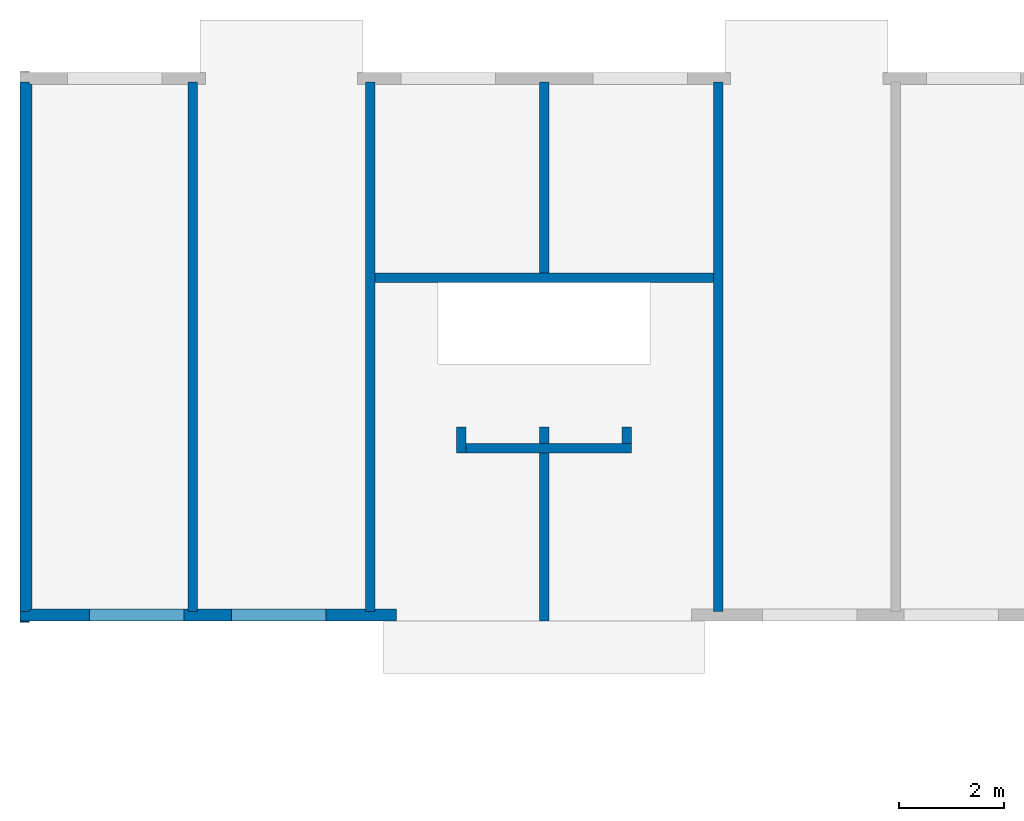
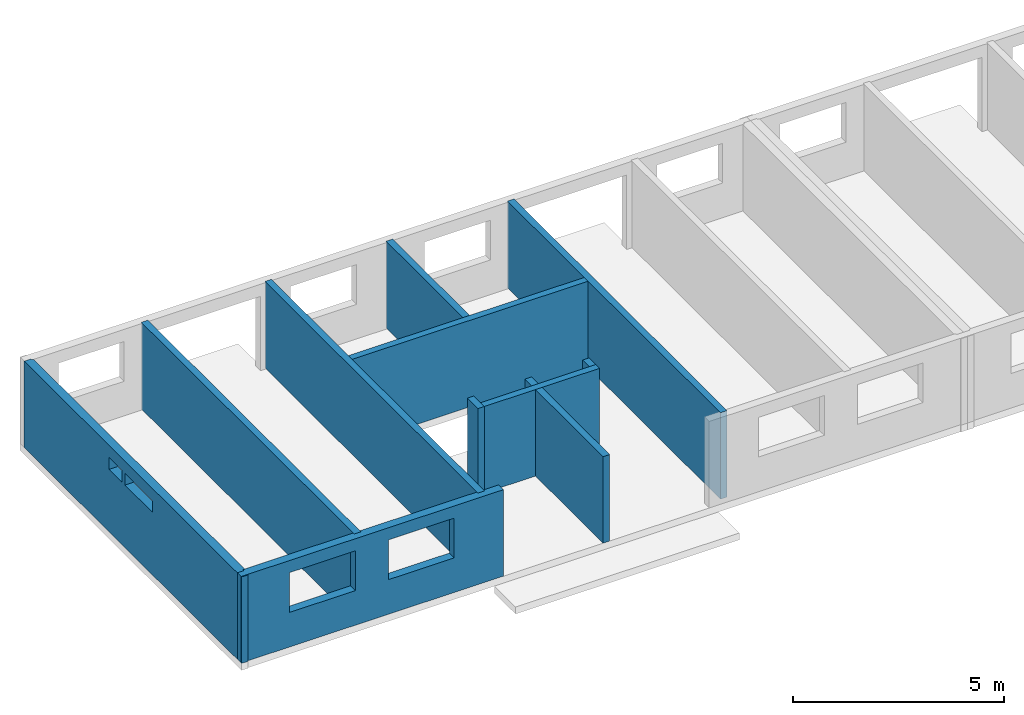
# One storey, part 2 of 9: 13 walls, 4 openings.
"""IFC2X3 building model written with IfcOpenShell, lengths in millimetres."""

from ifc_helpers import new_model, entity, si_unit, converted_unit, frame, frame_2d, origin, origin_with_axes, place, context, subcontext, project, spatial, polyline, rectangle, outline, extrude, material, layer, layer_set, layer_usage, element, save


model = new_model("IFC2X3")

# Units and contexts
model_context = context("Model", 3, precision=1e-05, world=origin())
plan_context = context("Plan", 3, precision=1e-05, world=origin())
body_context = subcontext(model_context, "Body", "Model", "MODEL_VIEW")
ifc_project = project(units=[si_unit("LENGTHUNIT", "METRE", prefix="MILLI"), converted_unit("PLANEANGLEUNIT", "DEGREE", entity("IfcPlaneAngleMeasure", 0.0174532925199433), si_unit("PLANEANGLEUNIT", "RADIAN"), dimensions=[0, 0, 0, 0, 0, 0, 0]), si_unit("AREAUNIT", "SQUARE_METRE"), si_unit("VOLUMEUNIT", "CUBIC_METRE")], contexts=[model_context, plan_context])

# Building, storey
building_placement = place(None, origin())
building = spatial("IfcBuilding", under=ifc_project, at=building_placement, Name="Bâtiment", CompositionType="ELEMENT")
storey_placement = place(building_placement, frame((0.0, 0.0, 2700.0), z_axis=(0.0, 0.0, 1.0), x_axis=(1.0, 0.0, 0.0)))
storey = spatial("IfcBuildingStorey", under=building, at=storey_placement, Name="r+1", CompositionType="ELEMENT", Elevation=2700.0)

# Walls
ifc_material_1 = material(Name="moellons")
ifc_layer_1 = layer(ifc_material_1, 20.0775509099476)
ifc_layer_set_1 = layer_set([ifc_layer_1])
ifc_layer_usage_1 = layer_usage(ifc_layer_set_1, "AXIS2", "POSITIVE", 0.0)
wall_1_placement = place(storey_placement, frame((-5.557612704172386e-12, 20.0775509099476, 0.0), z_axis=(0.0, 0.0, 1.0), x_axis=(1.0, -1.836970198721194e-16, 0.0)))
element("IfcWallStandardCase", 1, at=wall_1_placement, inside=storey, material=ifc_layer_usage_1, context=body_context, shape_type="SweptSolid", body=[
    extrude(rectangle(XDim=180.0, YDim=20.0775509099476, at=frame_2d((90.0, 10.0387754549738), x_axis=(1.0, 0.0))), frame((0.0, -20.0775509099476, 0.0), z_axis=(0.0, 0.0, 1.0), x_axis=(1.0, 0.0, 0.0)), (0.0, 0.0, 1.0), 2500.0),
])
ifc_material_2 = material(Name="moellons")
ifc_layer_2 = layer(ifc_material_2, 180.0)
ifc_layer_set_2 = layer_set([ifc_layer_2])
ifc_layer_usage_2 = layer_usage(ifc_layer_set_2, "AXIS2", "POSITIVE", 0.0)
wall_2_placement = place(storey_placement, frame((3380.0, 200.0775509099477, 0.0), z_axis=(0.0, 0.0, 1.0), x_axis=(4.506911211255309e-17, 1.0, 0.0)))
element("IfcWallStandardCase", 2, at=wall_2_placement, inside=storey, material=ifc_layer_usage_2, context=body_context, shape_type="SweptSolid", body=[
    extrude(rectangle(XDim=10090.00021457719, YDim=180.0, at=frame_2d((5045.000107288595, 90.0), x_axis=(1.0, 0.0))), origin_with_axes(), (0.0, 0.0, 1.0), 2500.0),
])
ifc_material_3 = material(Name="moellons")
ifc_layer_3 = layer(ifc_material_3, 180.0)
ifc_layer_set_3 = layer_set([ifc_layer_3])
ifc_layer_usage_3 = layer_usage(ifc_layer_set_3, "AXIS2", "POSITIVE", 0.0)
wall_3_placement = place(storey_placement, frame((6759.999999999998, 200.0775509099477, 0.0), z_axis=(0.0, 0.0, 1.0), x_axis=(0.0, 1.0, 0.0)))
element("IfcWallStandardCase", 3, at=wall_3_placement, inside=storey, material=ifc_layer_usage_3, context=body_context, shape_type="SweptSolid", body=[
    extrude(rectangle(XDim=10090.00021457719, YDim=180.0, at=frame_2d((5045.000107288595, 90.0), x_axis=(1.0, 0.0))), origin_with_axes(), (0.0, 0.0, 1.0), 2500.0),
])
ifc_material_4 = material(Name="moellons")
ifc_layer_4 = layer(ifc_material_4, 180.0)
ifc_layer_set_4 = layer_set([ifc_layer_4])
ifc_layer_usage_4 = layer_usage(ifc_layer_set_4, "AXIS2", "POSITIVE", 0.0)
wall_4_placement = place(storey_placement, frame((13389.99993810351, 200.0775509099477, 0.0), z_axis=(0.0, 0.0, 1.0), x_axis=(0.0, 1.0, 0.0)))
element("IfcWallStandardCase", 4, at=wall_4_placement, inside=storey, material=ifc_layer_usage_4, context=body_context, shape_type="SweptSolid", body=[
    extrude(rectangle(XDim=10090.00021457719, YDim=180.0, at=frame_2d((5045.000107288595, 90.0), x_axis=(1.0, 0.0))), origin_with_axes(), (0.0, 0.0, 1.0), 2500.0),
])
ifc_material_5 = material(Name="moellons")
ifc_layer_5 = layer(ifc_material_5, 180.0)
ifc_layer_set_5 = layer_set([ifc_layer_5])
ifc_layer_usage_5 = layer_usage(ifc_layer_set_5, "AXIS2", "POSITIVE", 0.0)
wall_5_placement = place(storey_placement, frame((10075.0, 20.03821782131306, 0.0), z_axis=(0.0, 0.0, 1.0), x_axis=(0.0, 1.0, 0.0)))
element("IfcWallStandardCase", 5, at=wall_5_placement, inside=storey, material=ifc_layer_usage_5, context=body_context, shape_type="SweptSolid", body=[
    extrude(outline(polyline([(0.0, 0.0), (3200.039547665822, 0.0), (3200.039547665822, 180.0), (0.0007169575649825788, 180.0), (0.0, 0.0)])), origin_with_axes(), (0.0, 0.0, 1.0), 2500.0),
])
ifc_material_6 = material(Name="moellons")
ifc_layer_6 = layer(ifc_material_6, 180.0)
ifc_layer_set_6 = layer_set([ifc_layer_6])
ifc_layer_usage_6 = layer_usage(ifc_layer_set_6, "AXIS2", "POSITIVE", 0.0)
wall_6_placement = place(storey_placement, frame((10075.0, 20.03821782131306, 0.0), z_axis=(0.0, 0.0, 1.0), x_axis=(0.0, 1.0, 0.0)))
element("IfcWallStandardCase", 6, at=wall_6_placement, inside=storey, material=ifc_layer_usage_6, context=body_context, shape_type="SweptSolid", body=[
    extrude(outline(polyline([(3380.039547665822, 0.0), (3700.039547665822, 0.0), (3700.039547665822, 180.0), (3380.039547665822, 180.0), (3380.039547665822, 0.0)])), origin_with_axes(), (0.0, 0.0, 1.0), 2500.0),
])
ifc_material_7 = material(Name="moellons")
ifc_layer_7 = layer(ifc_material_7, 180.0)
ifc_layer_set_7 = layer_set([ifc_layer_7])
ifc_layer_usage_7 = layer_usage(ifc_layer_set_7, "AXIS2", "POSITIVE", 0.0)
wall_7_placement = place(storey_placement, frame((10075.0, 6650.077765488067, 0.0), z_axis=(0.0, 0.0, 1.0), x_axis=(0.0, 1.0, 0.0)))
element("IfcWallStandardCase", 7, at=wall_7_placement, inside=storey, material=ifc_layer_usage_7, context=body_context, shape_type="SweptSolid", body=[
    extrude(rectangle(XDim=3639.999999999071, YDim=180.0, at=frame_2d((1819.999999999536, 90.0), x_axis=(1.0, 0.0))), origin_with_axes(), (0.0, 0.0, 1.0), 2500.0),
])
ifc_material_8 = material(Name="moellons")
ifc_layer_8 = layer(ifc_material_8, 180.0)
ifc_layer_set_8 = layer_set([ifc_layer_8])
ifc_layer_usage_8 = layer_usage(ifc_layer_set_8, "AXIS2", "POSITIVE", 0.0)
wall_8_placement = place(storey_placement, frame((13209.99947974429, 6650.077765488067, 0.0), z_axis=(0.0, 0.0, 1.0), x_axis=(-1.0, 0.0, 0.0)))
element("IfcWallStandardCase", 8, at=wall_8_placement, inside=storey, material=ifc_layer_usage_8, context=body_context, shape_type="SweptSolid", body=[
    extrude(rectangle(XDim=6449.999479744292, YDim=180.0, at=frame_2d((3224.999739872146, 90.0), x_axis=(1.0, 0.0))), origin_with_axes(), (0.0, 0.0, 1.0), 2500.0),
])
ifc_material_9 = material(Name="moellons")
ifc_layer_9 = layer(ifc_material_9, 180.0)
ifc_layer_set_9 = layer_set([ifc_layer_9])
ifc_layer_usage_9 = layer_usage(ifc_layer_set_9, "AXIS2", "POSITIVE", 0.0)
wall_9_placement = place(storey_placement, frame((8499.999453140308, 3220.077765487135, 0.0), z_axis=(0.0, 0.0, 1.0), x_axis=(0.0, 1.0, 0.0)))
element("IfcWallStandardCase", 9, at=wall_9_placement, inside=storey, material=ifc_layer_usage_9, context=body_context, shape_type="SweptSolid", body=[
    extrude(rectangle(XDim=500.0, YDim=180.0, at=frame_2d((250.0, 90.0), x_axis=(1.0, 0.0))), origin_with_axes(), (0.0, 0.0, 1.0), 2500.0),
])
ifc_material_10 = material(Name="moellons")
ifc_layer_10 = layer(ifc_material_10, 180.0)
ifc_layer_set_10 = layer_set([ifc_layer_10])
ifc_layer_usage_10 = layer_usage(ifc_layer_set_10, "AXIS2", "POSITIVE", 0.0)
wall_10_placement = place(storey_placement, frame((11649.99945314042, 3400.077765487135, 0.0), z_axis=(0.0, 0.0, 1.0), x_axis=(-1.0, 0.0, 0.0)))
element("IfcWallStandardCase", 10, at=wall_10_placement, inside=storey, material=ifc_layer_usage_10, context=body_context, shape_type="SweptSolid", body=[
    extrude(rectangle(XDim=3150.000000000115, YDim=180.0, at=frame_2d((1575.000000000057, 90.0), x_axis=(1.0, 0.0))), origin_with_axes(), (0.0, 0.0, 1.0), 2500.0),
])
ifc_material_11 = material(Name="moellons")
ifc_layer_11 = layer(ifc_material_11, 180.0)
ifc_layer_set_11 = layer_set([ifc_layer_11])
ifc_layer_usage_11 = layer_usage(ifc_layer_set_11, "AXIS2", "POSITIVE", 0.0)
wall_11_placement = place(storey_placement, frame((11469.99945314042, 3720.077765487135, 0.0), z_axis=(0.0, 0.0, 1.0), x_axis=(0.0, -1.0, 0.0)))
element("IfcWallStandardCase", 11, at=wall_11_placement, inside=storey, material=ifc_layer_usage_11, context=body_context, shape_type="SweptSolid", body=[
    extrude(rectangle(XDim=320.0, YDim=180.0, at=frame_2d((160.0, 90.0), x_axis=(1.0, 0.0))), origin_with_axes(), (0.0, 0.0, 1.0), 2500.0),
])

# Wall, openings
ifc_material_12 = material(Name="moellons")
ifc_layer_12 = layer(ifc_material_12, 180.0)
ifc_material_13 = material(Name="briquettes")
ifc_layer_13 = layer(ifc_material_13, 39.99999999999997)
ifc_material_14 = material(Name="enduit platre")
ifc_layer_14 = layer(ifc_material_14, 10.00000000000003)
ifc_layer_set_12 = layer_set([ifc_layer_12, ifc_layer_13, ifc_layer_14])
ifc_layer_usage_12 = layer_usage(ifc_layer_set_12, "AXIS2", "POSITIVE", 0.0)
wall_12_placement = place(storey_placement, frame((-3.671044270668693e-12, 10290.07776548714, 0.0), z_axis=(0.0, 0.0, 1.0), x_axis=(-1.836970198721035e-16, -1.0, 0.0)))
wall_12 = element("IfcWallStandardCase", 12, at=wall_12_placement, inside=storey, material=ifc_layer_usage_12, context=body_context, shape_type="SweptSolid", body=[
    extrude(outline(polyline([(0.0, 0.0), (10090.00021457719, 0.0), (10090.00021457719, 180.0000000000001), (10050.00021457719, 180.0000000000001), (10050.00021457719, 220.0), (10040.00021457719, 220.0), (10040.00021457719, 230.0), (49.99999999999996, 230.0), (49.99999999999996, 220.0), (39.99999999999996, 220.0), (39.99999999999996, 180.0), (-3.306546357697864e-14, 180.0), (0.0, 0.0)])), origin_with_axes(), (0.0, 0.0, 1.0), 2500.0),
])
opening_1_placement = place(wall_12_placement, frame((4020.000000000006, -7.068193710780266e-28, 1810.0), z_axis=(0.0, 1.0, 0.0), x_axis=(0.0, 0.0, 1.0)))
element("IfcOpeningElement", 13, at=opening_1_placement, cuts=wall_12, Name="Baie de fenêtre", ObjectType="Opening", context=body_context, shape_type="SweptSolid", body=[
    extrude(rectangle(XDim=340.0, YDim=600.0, at=frame_2d((170.0, 300.0), x_axis=(1.0, 0.0))), origin_with_axes(), (0.0, 0.0, 1.0), 230.0),
])
opening_2_placement = place(wall_12_placement, frame((4769.999999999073, 1.009741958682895e-28, 1810.0), z_axis=(0.0, 1.0, 0.0), x_axis=(0.0, 0.0, 1.0)))
element("IfcOpeningElement", 14, at=opening_2_placement, cuts=wall_12, Name="Baie de fenêtre", ObjectType="Opening", context=body_context, shape_type="SweptSolid", body=[
    extrude(rectangle(XDim=340.0, YDim=1300.0, at=frame_2d((170.0, 650.0), x_axis=(1.0, 0.0))), origin_with_axes(), (0.0, 0.0, 1.0), 230.0000000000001),
])

ifc_material_15 = material(Name="moellons")
ifc_layer_15 = layer(ifc_material_15, 180.0000000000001)
ifc_material_16 = material(Name="briquettes")
ifc_layer_16 = layer(ifc_material_16, 40.0)
ifc_material_17 = material(Name="enduit platre")
ifc_layer_17 = layer(ifc_material_17, 10.0)
ifc_layer_set_13 = layer_set([ifc_layer_15, ifc_layer_16, ifc_layer_17])
ifc_layer_usage_13 = layer_usage(ifc_layer_set_13, "AXIS2", "POSITIVE", 0.0)
wall_13_placement = place(storey_placement, frame((-5.557612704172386e-12, 20.0775509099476, 0.0), z_axis=(0.0, 0.0, 1.0), x_axis=(1.0, 0.0, 0.0)))
wall_13 = element("IfcWallStandardCase", 15, at=wall_13_placement, inside=storey, material=ifc_layer_usage_13, context=body_context, shape_type="SweptSolid", body=[
    extrude(outline(polyline([(6760.000000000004, 230.0000000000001), (6760.000000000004, 180.0000000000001), (6580.000000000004, 180.0000000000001), (6580.000000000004, 230.0000000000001), (3380.000000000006, 230.0000000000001), (3380.000000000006, 180.0000000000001), (3200.000000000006, 180.0000000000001), (3200.000000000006, 230.0000000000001), (220.0000000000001, 230.0000000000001), (220.0000000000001, 220.0000000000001), (180.0000000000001, 220.0000000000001), (180.0000000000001, 180.0000000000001), (3.306546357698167e-14, 180.0000000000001), (0.0, 0.0), (7175.000000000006, 0.0), (7175.000000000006, 230.0000000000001), (6760.000000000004, 230.0000000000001)])), origin_with_axes(), (0.0, 0.0, 1.0), 2500.0),
])
opening_3_placement = place(wall_13_placement, frame((4025.00000000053, 0.0, 1000.0), z_axis=(0.0, 1.0, 0.0), x_axis=(0.0, 0.0, 1.0)))
element("IfcOpeningElement", 16, at=opening_3_placement, cuts=wall_13, Name="Baie de fenêtre", ObjectType="Opening", context=body_context, shape_type="SweptSolid", body=[
    extrude(rectangle(XDim=1150.0, YDim=1800.0, at=frame_2d((575.0, 899.9999999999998), x_axis=(1.0, 0.0))), origin_with_axes(), (0.0, 0.0, 1.0), 230.0),
])
opening_4_placement = place(wall_13_placement, frame((1325.000000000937, 0.0, 1000.0), z_axis=(0.0, 1.0, 0.0), x_axis=(0.0, 0.0, 1.0)))
element("IfcOpeningElement", 17, at=opening_4_placement, cuts=wall_13, Name="Baie de fenêtre", ObjectType="Opening", context=body_context, shape_type="SweptSolid", body=[
    extrude(rectangle(XDim=1150.0, YDim=1800.0, at=frame_2d((575.0, 900.0), x_axis=(1.0, 0.0))), origin_with_axes(), (0.0, 0.0, 1.0), 230.0000000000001),
])

save(model, "model.ifc")
